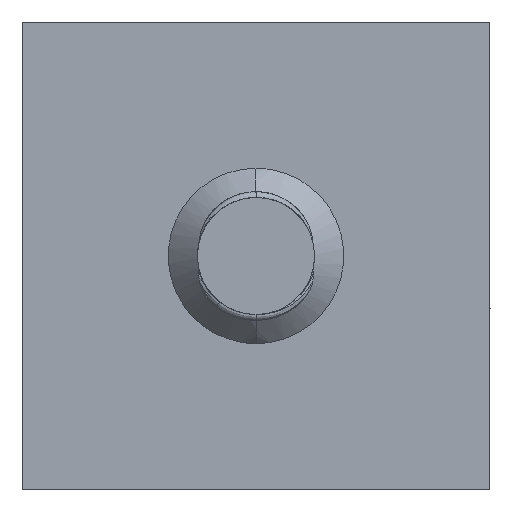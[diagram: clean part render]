
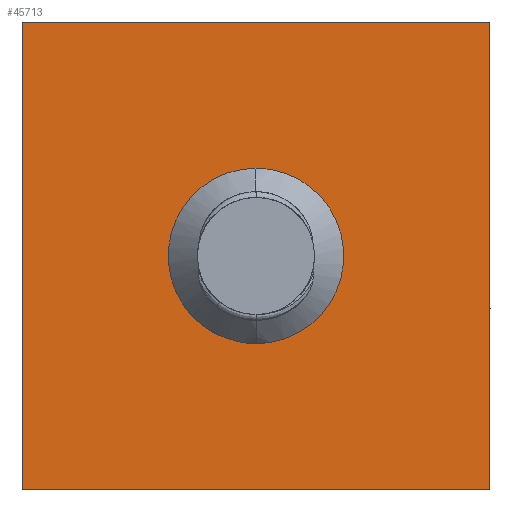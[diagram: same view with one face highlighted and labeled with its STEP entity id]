
A CAD part, front view. The second image highlights one B-rep face of the part: STEP entity #45713.
In plain terms, the highlighted planar face has unit normal (0, -1, 0).
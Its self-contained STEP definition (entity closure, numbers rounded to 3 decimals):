
#1086 = CARTESIAN_POINT ( 'NONE',  ( -29.066, 30.863, 0. ) ) ;
#1257 = DIRECTION ( 'NONE',  ( 0., 0., 1. ) ) ;
#1513 = ORIENTED_EDGE ( 'NONE', *, *, #35526, .F. ) ;
#3754 = CARTESIAN_POINT ( 'NONE',  ( -29.066, 30.863, -2.5 ) ) ;
#4411 = EDGE_CURVE ( 'NONE', #34898, #30177, #46461, .T. ) ;
#4520 = CIRCLE ( 'NONE', #40808, 2.5 ) ;
#4885 = EDGE_LOOP ( 'NONE', ( #1513, #22058, #47667, #27842 ) ) ;
#5626 = VERTEX_POINT ( 'NONE', #9718 ) ;
#5852 = CARTESIAN_POINT ( 'NONE',  ( -69.066, 30.863, 40. ) ) ;
#9006 = LINE ( 'NONE', #30479, #30126 ) ;
#9463 = DIRECTION ( 'NONE',  ( 0., 1., 0. ) ) ;
#9470 = ORIENTED_EDGE ( 'NONE', *, *, #29717, .T. ) ;
#9718 = CARTESIAN_POINT ( 'NONE',  ( -29.066, 30.863, 2.5 ) ) ;
#11481 = VECTOR ( 'NONE', #41311, 1000. ) ;
#11662 = FACE_OUTER_BOUND ( 'NONE', #4885, .T. ) ;
#13311 = EDGE_CURVE ( 'NONE', #30177, #48178, #51520, .T. ) ;
#14925 = LINE ( 'NONE', #43040, #27048 ) ;
#14942 = DIRECTION ( 'NONE',  ( 0., 0., -1. ) ) ;
#15753 = AXIS2_PLACEMENT_3D ( 'NONE', #53152, #9463, #39207 ) ;
#15934 = CARTESIAN_POINT ( 'NONE',  ( -69.066, 30.863, -40. ) ) ;
#17805 = VERTEX_POINT ( 'NONE', #48976 ) ;
#20280 = DIRECTION ( 'NONE',  ( 0., 0., 1. ) ) ;
#22058 = ORIENTED_EDGE ( 'NONE', *, *, #13311, .F. ) ;
#24221 = DIRECTION ( 'NONE',  ( 0., 0., -1. ) ) ;
#26997 = VERTEX_POINT ( 'NONE', #3754 ) ;
#27048 = VECTOR ( 'NONE', #24221, 1000. ) ;
#27842 = ORIENTED_EDGE ( 'NONE', *, *, #32659, .F. ) ;
#28102 = EDGE_CURVE ( 'NONE', #5626, #26997, #40779, .T. ) ;
#29717 = EDGE_CURVE ( 'NONE', #26997, #5626, #4520, .T. ) ;
#30126 = VECTOR ( 'NONE', #59575, 1000. ) ;
#30177 = VERTEX_POINT ( 'NONE', #5852 ) ;
#30479 = CARTESIAN_POINT ( 'NONE',  ( -69.066, 30.863, -40. ) ) ;
#30639 = CARTESIAN_POINT ( 'NONE',  ( 10.934, 30.863, 40. ) ) ;
#32659 = EDGE_CURVE ( 'NONE', #17805, #34898, #9006, .T. ) ;
#33579 = CARTESIAN_POINT ( 'NONE',  ( 10.934, 30.863, -40. ) ) ;
#34898 = VERTEX_POINT ( 'NONE', #15934 ) ;
#35131 = VECTOR ( 'NONE', #1257, 1000. ) ;
#35526 = EDGE_CURVE ( 'NONE', #48178, #17805, #14925, .T. ) ;
#38611 = DIRECTION ( 'NONE',  ( 0., -1., 0. ) ) ;
#39207 = DIRECTION ( 'NONE',  ( 0., 0., 1. ) ) ;
#40779 = CIRCLE ( 'NONE', #15753, 2.5 ) ;
#40808 = AXIS2_PLACEMENT_3D ( 'NONE', #1086, #54256, #20280 ) ;
#41311 = DIRECTION ( 'NONE',  ( 1., 0., 0. ) ) ;
#43040 = CARTESIAN_POINT ( 'NONE',  ( 10.934, 30.863, 40. ) ) ;
#44705 = ORIENTED_EDGE ( 'NONE', *, *, #28102, .T. ) ;
#45604 = AXIS2_PLACEMENT_3D ( 'NONE', #33579, #38611, #14942 ) ;
#45713 = ADVANCED_FACE ( 'NONE', ( #11662, #52438 ), #62662, .T. ) ;
#46289 = EDGE_LOOP ( 'NONE', ( #9470, #44705 ) ) ;
#46461 = LINE ( 'NONE', #59284, #35131 ) ;
#47667 = ORIENTED_EDGE ( 'NONE', *, *, #4411, .F. ) ;
#48178 = VERTEX_POINT ( 'NONE', #30639 ) ;
#48976 = CARTESIAN_POINT ( 'NONE',  ( 10.934, 30.863, -40. ) ) ;
#51520 = LINE ( 'NONE', #59670, #11481 ) ;
#52438 = FACE_BOUND ( 'NONE', #46289, .T. ) ;
#53152 = CARTESIAN_POINT ( 'NONE',  ( -29.066, 30.863, 0. ) ) ;
#54256 = DIRECTION ( 'NONE',  ( 0., 1., 0. ) ) ;
#59284 = CARTESIAN_POINT ( 'NONE',  ( -69.066, 30.863, 40. ) ) ;
#59575 = DIRECTION ( 'NONE',  ( -1., 0., 0. ) ) ;
#59670 = CARTESIAN_POINT ( 'NONE',  ( -69.066, 30.863, 40. ) ) ;
#62662 = PLANE ( 'NONE',  #45604 ) ;
